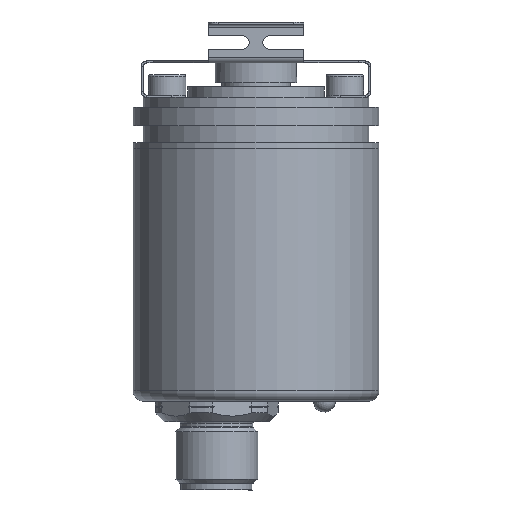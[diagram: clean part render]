
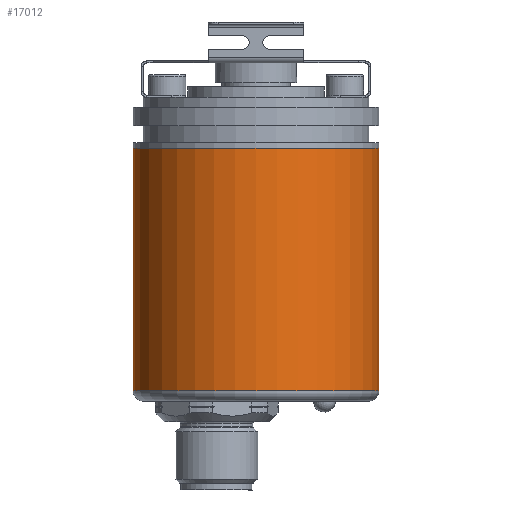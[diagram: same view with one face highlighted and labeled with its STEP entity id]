
A CAD part, front view. The second image highlights one B-rep face of the part: STEP entity #17012.
In plain terms, the highlighted cylindrical face has radius 18 mm (diameter 36 mm), a full revolution.
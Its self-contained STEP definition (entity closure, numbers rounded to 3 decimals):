
#231 = FACE_OUTER_BOUND ( 'NONE', #9756, .T. ) ;
#276 = CARTESIAN_POINT ( 'NONE',  ( -22.747, -22.713, -46.904 ) ) ;
#796 = DIRECTION ( 'NONE',  ( -1., 0., 0. ) ) ;
#964 = ORIENTED_EDGE ( 'NONE', *, *, #10622, .F. ) ;
#1488 = AXIS2_PLACEMENT_3D ( 'NONE', #9367, #15382, #796 ) ;
#2706 = CIRCLE ( 'NONE', #1488, 18. ) ;
#3084 = CARTESIAN_POINT ( 'NONE',  ( -22.747, -22.713, -11.404 ) ) ;
#3508 = DIRECTION ( 'NONE',  ( 0., 0., -1. ) ) ;
#4690 = FACE_OUTER_BOUND ( 'NONE', #15500, .T. ) ;
#4790 = DIRECTION ( 'NONE',  ( -1., 0., 0. ) ) ;
#7536 = DIRECTION ( 'NONE',  ( 0., 0., -1. ) ) ;
#7845 = CARTESIAN_POINT ( 'NONE',  ( -40.747, -22.713, -11.404 ) ) ;
#9128 = CARTESIAN_POINT ( 'NONE',  ( -4.747, -22.713, -46.904 ) ) ;
#9224 = VERTEX_POINT ( 'NONE', #9128 ) ;
#9367 = CARTESIAN_POINT ( 'NONE',  ( -22.747, -22.713, -11.404 ) ) ;
#9555 = VERTEX_POINT ( 'NONE', #7845 ) ;
#9756 = EDGE_LOOP ( 'NONE', ( #11786 ) ) ;
#10323 = AXIS2_PLACEMENT_3D ( 'NONE', #3084, #7536, #4790 ) ;
#10438 = DIRECTION ( 'NONE',  ( 1., 0., 0. ) ) ;
#10622 = EDGE_CURVE ( 'NONE', #9555, #9555, #2706, .T. ) ;
#11786 = ORIENTED_EDGE ( 'NONE', *, *, #14703, .F. ) ;
#13406 = AXIS2_PLACEMENT_3D ( 'NONE', #276, #3508, #10438 ) ;
#14703 = EDGE_CURVE ( 'NONE', #9224, #9224, #15511, .T. ) ;
#14719 = CYLINDRICAL_SURFACE ( 'NONE', #10323, 18. ) ;
#15382 = DIRECTION ( 'NONE',  ( 0., 0., 1. ) ) ;
#15500 = EDGE_LOOP ( 'NONE', ( #964 ) ) ;
#15511 = CIRCLE ( 'NONE', #13406, 18. ) ;
#17012 = ADVANCED_FACE ( 'NONE', ( #4690, #231 ), #14719, .T. ) ;
